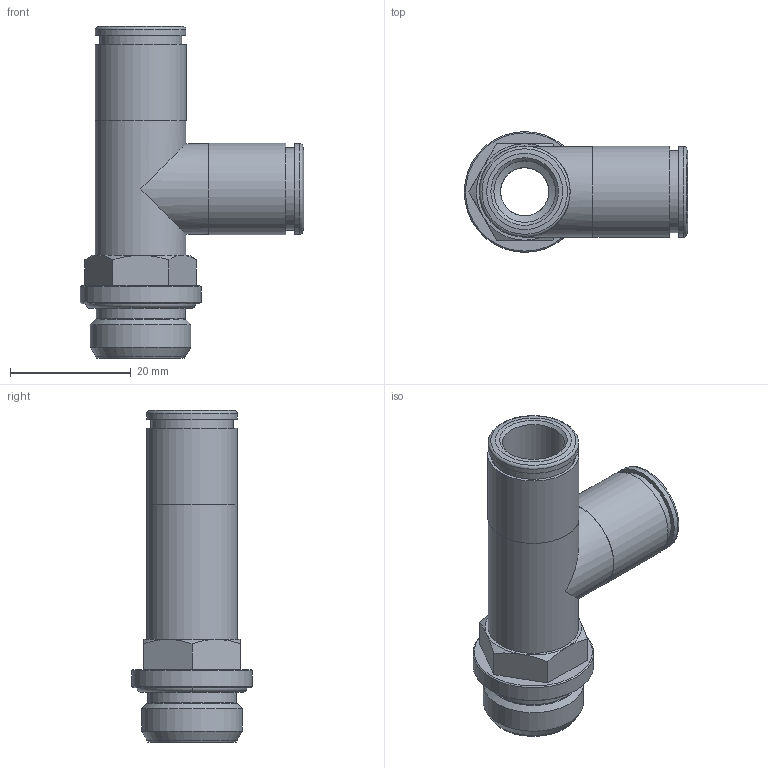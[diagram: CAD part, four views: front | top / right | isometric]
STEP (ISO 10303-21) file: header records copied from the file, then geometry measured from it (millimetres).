
FILE_DESCRIPTION(('Bauteilbeschreibung','HiCAD-Model','HiCAD-STEP-TRANSLATION','Bauteilbeschreibung'),'2;1');
FILE_NAME('B:/ABGLEICH/ZEICHNUNGEN/STEP FÜR INTERNET/STEP/IPSO 021/202109_IPSO_021_10_3-8.STP','2011-09-28T16:33:53+00:00',('Konstrukteur'),('Konstrukteur Firma GmbH'),' HiCAD neXt 2008, Step 3.1.1401.2J ','HiCAD neXt 2008','confidential');
FILE_SCHEMA(('AUTOMOTIVE_DESIGN { 1 2 10303 214 0 1 1 1 }'));
Length unit declared in the file: millimetre
Products named in the file (8): A02109_IPSO_021_10_3_8; DR10_N; DR100N; R202108_N; OR 14X1_78; A14629_GEW_1_4_3_8; A146290GEW01040308; G 3_8
Assembly tree (7 placements, depth 3):
  A02109_IPSO_021_10_3_8
    DR10_N
    DR100N
    R202108_N
    OR 14X1_78
    A14629_GEW_1_4_3_8
    A146290GEW01040308
      G 3_8
Bounding box: 37 x 20 x 55 mm (x, y, z)
Volume: 7353.6 mm3; surface area: 9589.1 mm2
Topology: 6 solids, 6 shells, 102 faces, 214 edges, 129 vertices
Faces by surface type: cone 37, cylinder 32, plane 25, torus 8
Full cylindrical faces by diameter (mm): 8 x3, 10.2 x4, 11 x1, 12.2 x2, 12.3 x2, 13 x2, 13.5 x2, 13.6 x2, 13.7 x2, 14.75 x1, 14.95 x2, 15 x4, 15.1 x2, 16.662 x1, 20 x1
Entity records: 3652 total; most frequent: CARTESIAN_POINT 976, DIRECTION 448, ORIENTED_EDGE 266, AXIS2_PLACEMENT_3D 217, EDGE_LOOP 186, EDGE_CURVE 133, COLOUR_RGB 125, PRESENTATION_STYLE_ASSIGNMENT 125
